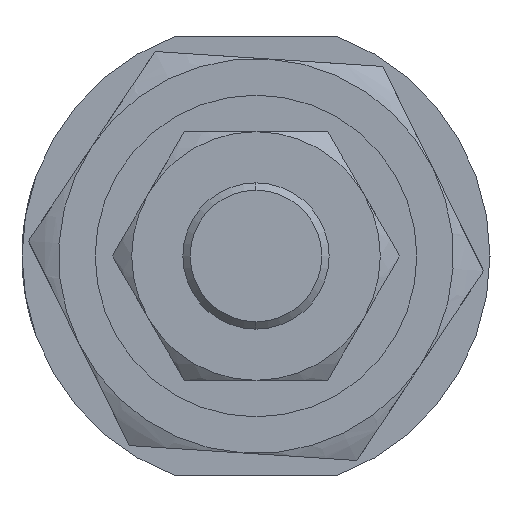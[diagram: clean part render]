
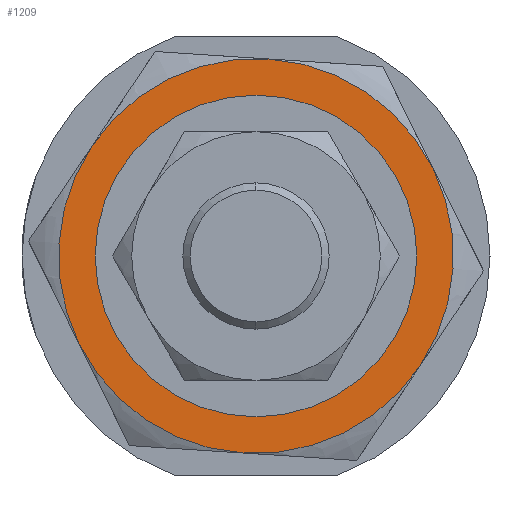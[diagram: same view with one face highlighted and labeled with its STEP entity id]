
A CAD part, left-side view. The second image highlights one B-rep face of the part: STEP entity #1209.
In plain terms, the highlighted planar face has unit normal (-1, 0, 0) as drawn and (0, 0, -1) by its records, which use the part's own axes.
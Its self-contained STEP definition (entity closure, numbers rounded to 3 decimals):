
#45 = VERTEX_POINT ( 'NONE', #1124 ) ;
#53 = EDGE_LOOP ( 'NONE', ( #358, #669 ) ) ;
#58 = DIRECTION ( 'NONE',  ( 1., 0., 0. ) ) ;
#69 = AXIS2_PLACEMENT_3D ( 'NONE', #582, #2291, #2315 ) ;
#199 = AXIS2_PLACEMENT_3D ( 'NONE', #856, #1058, #1795 ) ;
#208 = FACE_BOUND ( 'NONE', #53, .T. ) ;
#243 = CIRCLE ( 'NONE', #2126, 10. ) ;
#258 = CARTESIAN_POINT ( 'NONE',  ( 6.75, 11.691, -5. ) ) ;
#270 = CARTESIAN_POINT ( 'NONE',  ( 13.5, 0., -5. ) ) ;
#280 = AXIS2_PLACEMENT_3D ( 'NONE', #1090, #3026, #2090 ) ;
#305 = FACE_OUTER_BOUND ( 'NONE', #828, .T. ) ;
#358 = ORIENTED_EDGE ( 'NONE', *, *, #446, .T. ) ;
#446 = EDGE_CURVE ( 'NONE', #1003, #1616, #243, .T. ) ;
#490 = AXIS2_PLACEMENT_3D ( 'NONE', #953, #913, #3095 ) ;
#554 = CARTESIAN_POINT ( 'NONE',  ( 0., 0., -5. ) ) ;
#560 = DIRECTION ( 'NONE',  ( 1., 0., 0. ) ) ;
#582 = CARTESIAN_POINT ( 'NONE',  ( 0., 0., -5. ) ) ;
#646 = EDGE_CURVE ( 'NONE', #1616, #1003, #1851, .T. ) ;
#649 = VERTEX_POINT ( 'NONE', #2816 ) ;
#657 = EDGE_CURVE ( 'NONE', #45, #2833, #1971, .T. ) ;
#669 = ORIENTED_EDGE ( 'NONE', *, *, #646, .T. ) ;
#673 = DIRECTION ( 'NONE',  ( 1., 0., 0. ) ) ;
#685 = VERTEX_POINT ( 'NONE', #912 ) ;
#764 = AXIS2_PLACEMENT_3D ( 'NONE', #2666, #1205, #2425 ) ;
#828 = EDGE_LOOP ( 'NONE', ( #1601, #1548, #871, #1698, #2913, #3113 ) ) ;
#856 = CARTESIAN_POINT ( 'NONE',  ( 0., 0., -5. ) ) ;
#871 = ORIENTED_EDGE ( 'NONE', *, *, #903, .F. ) ;
#903 = EDGE_CURVE ( 'NONE', #685, #45, #1159, .T. ) ;
#912 = CARTESIAN_POINT ( 'NONE',  ( -6.75, -11.691, -5. ) ) ;
#913 = DIRECTION ( 'NONE',  ( 0., 0., 1. ) ) ;
#953 = CARTESIAN_POINT ( 'NONE',  ( 0., 0., -5. ) ) ;
#1003 = VERTEX_POINT ( 'NONE', #1514 ) ;
#1006 = VERTEX_POINT ( 'NONE', #258 ) ;
#1058 = DIRECTION ( 'NONE',  ( 0., 0., 1. ) ) ;
#1090 = CARTESIAN_POINT ( 'NONE',  ( 0., 0., -5. ) ) ;
#1124 = CARTESIAN_POINT ( 'NONE',  ( 6.75, -11.691, -5. ) ) ;
#1151 = CIRCLE ( 'NONE', #69, 13.5 ) ;
#1159 = CIRCLE ( 'NONE', #490, 13.5 ) ;
#1186 = EDGE_CURVE ( 'NONE', #649, #685, #1608, .T. ) ;
#1205 = DIRECTION ( 'NONE',  ( 0., 0., 1. ) ) ;
#1209 = ADVANCED_FACE ( 'NONE', ( #208, #305 ), #2415, .F. ) ;
#1212 = CARTESIAN_POINT ( 'NONE',  ( -10., 0., -5. ) ) ;
#1288 = DIRECTION ( 'NONE',  ( 0., 0., 1. ) ) ;
#1328 = CARTESIAN_POINT ( 'NONE',  ( 0., 0., -5. ) ) ;
#1397 = DIRECTION ( 'NONE',  ( 0., 0., 1. ) ) ;
#1429 = VERTEX_POINT ( 'NONE', #3136 ) ;
#1456 = AXIS2_PLACEMENT_3D ( 'NONE', #1328, #1288, #560 ) ;
#1465 = CIRCLE ( 'NONE', #1508, 13.5 ) ;
#1508 = AXIS2_PLACEMENT_3D ( 'NONE', #1928, #1972, #1684 ) ;
#1514 = CARTESIAN_POINT ( 'NONE',  ( 10., 0., -5. ) ) ;
#1548 = ORIENTED_EDGE ( 'NONE', *, *, #657, .F. ) ;
#1601 = ORIENTED_EDGE ( 'NONE', *, *, #2757, .F. ) ;
#1608 = CIRCLE ( 'NONE', #199, 13.5 ) ;
#1616 = VERTEX_POINT ( 'NONE', #1212 ) ;
#1684 = DIRECTION ( 'NONE',  ( 1., 0., 0. ) ) ;
#1698 = ORIENTED_EDGE ( 'NONE', *, *, #1186, .F. ) ;
#1795 = DIRECTION ( 'NONE',  ( 1., 0., 0. ) ) ;
#1851 = CIRCLE ( 'NONE', #280, 10. ) ;
#1928 = CARTESIAN_POINT ( 'NONE',  ( 0., 0., -5. ) ) ;
#1971 = CIRCLE ( 'NONE', #2959, 13.5 ) ;
#1972 = DIRECTION ( 'NONE',  ( 0., 0., 1. ) ) ;
#2090 = DIRECTION ( 'NONE',  ( 1., 0., 0. ) ) ;
#2126 = AXIS2_PLACEMENT_3D ( 'NONE', #554, #2260, #58 ) ;
#2260 = DIRECTION ( 'NONE',  ( 0., 0., 1. ) ) ;
#2291 = DIRECTION ( 'NONE',  ( 0., 0., 1. ) ) ;
#2315 = DIRECTION ( 'NONE',  ( 1., 0., 0. ) ) ;
#2415 = PLANE ( 'NONE',  #764 ) ;
#2425 = DIRECTION ( 'NONE',  ( 1., 0., 0. ) ) ;
#2641 = CIRCLE ( 'NONE', #1456, 13.5 ) ;
#2666 = CARTESIAN_POINT ( 'NONE',  ( 0., 0., -5. ) ) ;
#2757 = EDGE_CURVE ( 'NONE', #2833, #1006, #1465, .T. ) ;
#2816 = CARTESIAN_POINT ( 'NONE',  ( -13.5, 0., -5. ) ) ;
#2833 = VERTEX_POINT ( 'NONE', #270 ) ;
#2850 = CARTESIAN_POINT ( 'NONE',  ( 0., 0., -5. ) ) ;
#2913 = ORIENTED_EDGE ( 'NONE', *, *, #3091, .F. ) ;
#2959 = AXIS2_PLACEMENT_3D ( 'NONE', #2850, #1397, #673 ) ;
#3026 = DIRECTION ( 'NONE',  ( 0., 0., 1. ) ) ;
#3081 = EDGE_CURVE ( 'NONE', #1006, #1429, #2641, .T. ) ;
#3091 = EDGE_CURVE ( 'NONE', #1429, #649, #1151, .T. ) ;
#3095 = DIRECTION ( 'NONE',  ( 1., 0., 0. ) ) ;
#3113 = ORIENTED_EDGE ( 'NONE', *, *, #3081, .F. ) ;
#3136 = CARTESIAN_POINT ( 'NONE',  ( -6.75, 11.691, -5. ) ) ;
